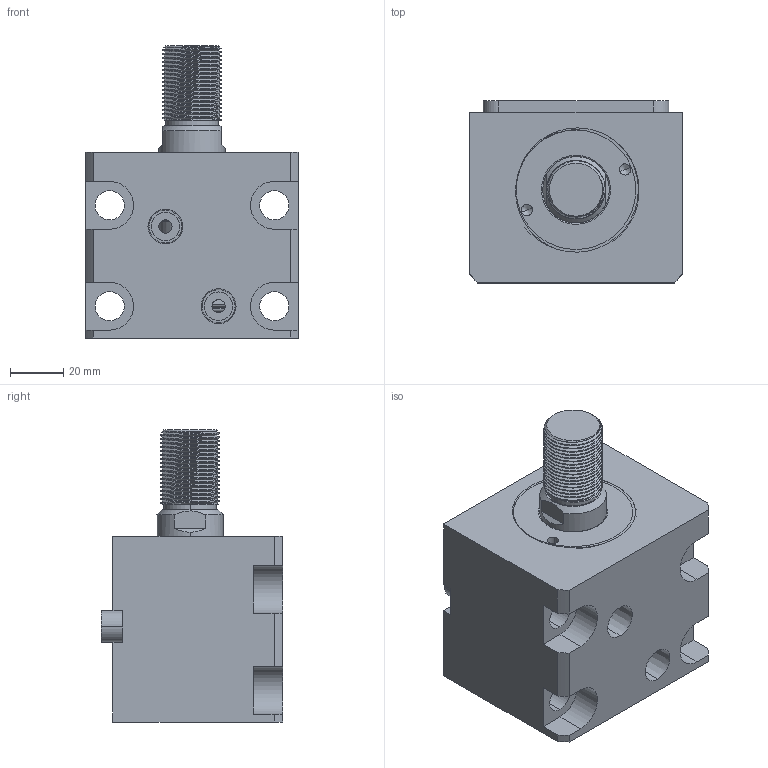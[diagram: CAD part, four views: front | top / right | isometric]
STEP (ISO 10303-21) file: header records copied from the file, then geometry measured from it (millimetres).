
FILE_DESCRIPTION (( 'STEP AP214' ), '1' );
FILE_NAME ('chtb-la40x15w_asm.STEP', '2018-06-02T06:52:11', ( 'Windows' ), ( 'Microsoft' ), 'SwSTEP 2.0', 'SolidWorks 2015', '' );
FILE_SCHEMA (( 'AUTOMOTIVE_DESIGN' ));
Length unit declared in the file: millimetre
Products named in the file (5): CHTB-SD40QG; CHTB-LA40PJ; CHTB-SD40X15WHSG; CHTB-LA40X15NBT; chtb-la40x15w_asm
Assembly tree (4 placements, depth 2):
  chtb-la40x15w_asm
    CHTB-LA40X15NBT
    CHTB-SD40X15WHSG
    CHTB-LA40PJ
    CHTB-SD40QG
Bounding box: 80 x 68.5 x 110 mm (x, y, z)
Volume: 326034.1 mm3; surface area: 74003.5 mm2
Topology: 4 solids, 5 shells, 205 faces, 559 edges, 373 vertices
Faces by surface type: cylinder 111, plane 52, bspline 16, cone 14, torus 12
Entity records: 13775 total; most frequent: CARTESIAN_POINT 8706, ORIENTED_EDGE 1106, DIRECTION 926, EDGE_CURVE 553, VERTEX_POINT 373, AXIS2_PLACEMENT_3D 363, EDGE_LOOP 234, ADVANCED_FACE 205
